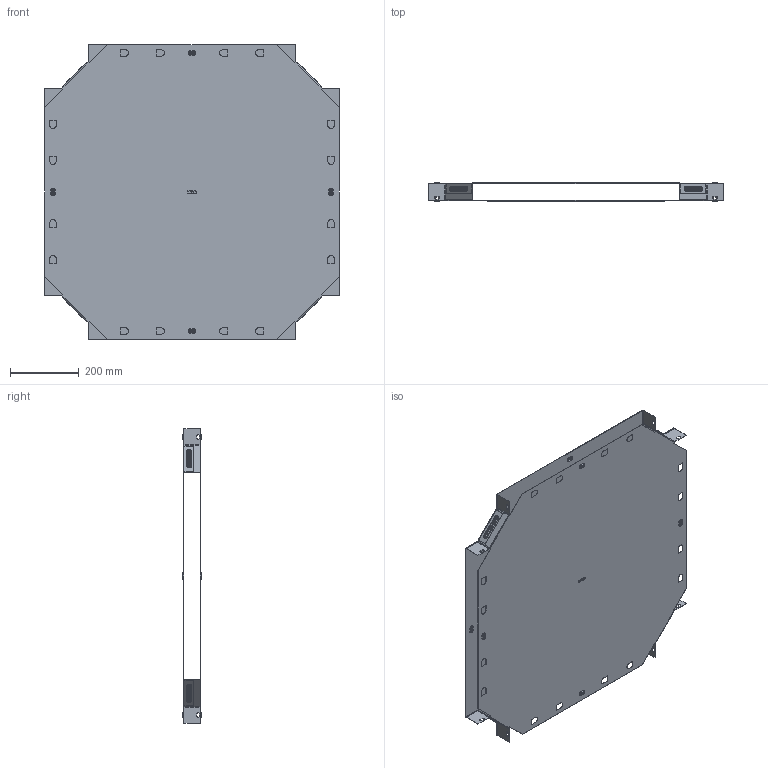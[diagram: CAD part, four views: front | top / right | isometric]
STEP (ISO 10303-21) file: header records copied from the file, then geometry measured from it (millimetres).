
FILE_DESCRIPTION (( 'STEP AP214' ), '1' );
FILE_NAME ('x5060008_捘.STEP', '2019-06-10T07:32:15', ( '砐錪賧瘔蠈錪 Windows' ), ( '' ), 'SwSTEP 2.0', 'SolidWorks 2018', '' );
FILE_SCHEMA (( 'AUTOMOTIVE_DESIGN' ));
Length unit declared in the file: millimetre
Products named in the file (1): x5060008_捘
Bounding box: 855.01 x 53.8 x 855.01 mm (x, y, z)
Volume: 1112213 mm3; surface area: 2788564.7 mm2
Topology: 2 solids, 2 shells, 880 faces, 2496 edges, 1616 vertices
Faces by surface type: plane 454, cylinder 280, torus 128, bspline 18
Entity records: 29599 total; most frequent: CARTESIAN_POINT 5951, ORIENTED_EDGE 4992, DIRECTION 4938, EDGE_CURVE 2496, VECTOR 1708, LINE 1708, VERTEX_POINT 1616, AXIS2_PLACEMENT_3D 1615
